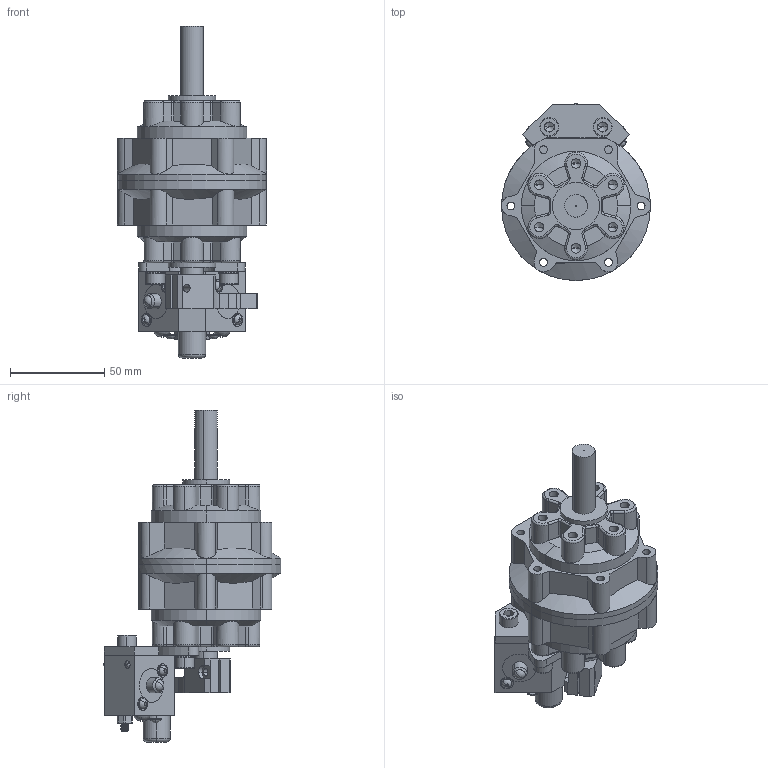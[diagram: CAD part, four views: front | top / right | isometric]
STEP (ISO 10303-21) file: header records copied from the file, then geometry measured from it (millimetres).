
FILE_DESCRIPTION (( 'STEP AP203' ), '1' );
FILE_NAME ('PRN50#-#-#-#-CR.STEP', '2016-01-14T16:40:53', ( '' ), ( '' ), 'SwSTEP 2.0', 'SolidWorks 2014', '' );
FILE_SCHEMA (( 'CONFIG_CONTROL_DESIGN' ));
Length unit declared in the file: millimetre
Products named in the file (19): 六孔螺帽; 2; PRN50 (3); 螺帽; PRN50 (1); M6螺絲; 鏡射六孔螺帽; 螺絲; mark-PRN50; 鏡射螺帽; PRO-CR2; PRN50-CR; 零件4; PRN50 (2); 圓頂; 螺絲1; CR; PRO-CR1; PRN50#-#-#-#-CR
Assembly tree (30 placements, depth 3):
  PRN50#-#-#-#-CR
    PRN50 (1)
    PRN50 (2)
    PRN50 (3)
    mark-PRN50
    PRN50-CR
      PRO-CR2
      2  x2
      圓頂  x3
      螺絲  x2
      零件4
      六孔螺帽  x5
      螺帽
      鏡射螺帽
      鏡射六孔螺帽
      螺絲1  x2
      M6螺絲  x4
      PRO-CR1
    CR
Bounding box: 79 x 94 x 176 mm (x, y, z)
Volume: 312724.4 mm3; surface area: 84034.6 mm2
Topology: 37 solids, 37 shells, 957 faces, 2360 edges, 1484 vertices
Faces by surface type: plane 404, cylinder 353, torus 79, cone 75, sphere 26, bspline 20
Full cylindrical faces by diameter (mm): 4.2 x1
Entity records: 27755 total; most frequent: CARTESIAN_POINT 7197, DIRECTION 3991, ORIENTED_EDGE 3702, EDGE_CURVE 1851, AXIS2_PLACEMENT_3D 1535, VERTEX_POINT 1188, LINE 921, VECTOR 921
